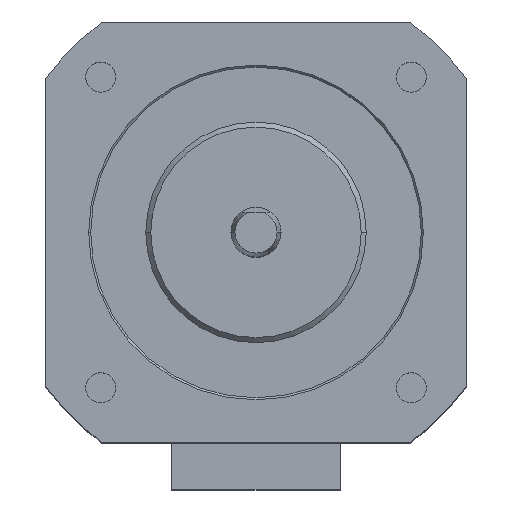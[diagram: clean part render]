
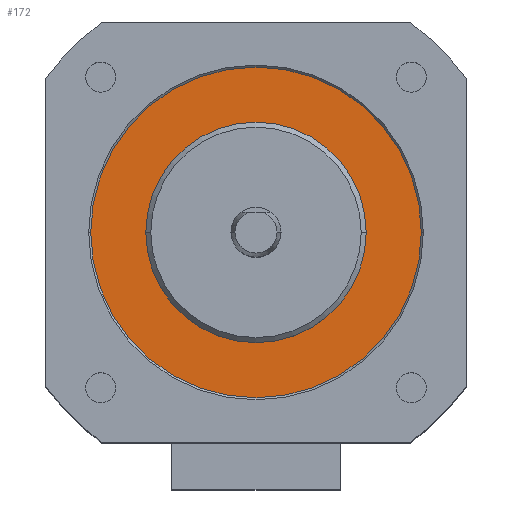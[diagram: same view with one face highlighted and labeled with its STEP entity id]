
A CAD part, top view. The second image highlights one B-rep face of the part: STEP entity #172.
In plain terms, the highlighted planar face has unit normal (0, 0, 1).
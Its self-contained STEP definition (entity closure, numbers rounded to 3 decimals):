
#4 = CARTESIAN_POINT ( 'NONE',  ( -11., 0., -2.2 ) ) ;
#17 = DIRECTION ( 'NONE',  ( 1., 0., 0. ) ) ;
#43 = VERTEX_POINT ( 'NONE', #4 ) ;
#77 = DIRECTION ( 'NONE',  ( 1., 0., 0. ) ) ;
#171 = CARTESIAN_POINT ( 'NONE',  ( 0., 0., -2.2 ) ) ;
#172 = ADVANCED_FACE ( 'NONE', ( #582, #353 ), #792, .T. ) ;
#241 = AXIS2_PLACEMENT_3D ( 'NONE', #1838, #1695, #1553 ) ;
#248 = EDGE_LOOP ( 'NONE', ( #1597, #1250 ) ) ;
#327 = EDGE_CURVE ( 'NONE', #43, #1662, #1355, .T. ) ;
#353 = FACE_OUTER_BOUND ( 'NONE', #665, .T. ) ;
#358 = DIRECTION ( 'NONE',  ( 0., 0., 1. ) ) ;
#434 = ORIENTED_EDGE ( 'NONE', *, *, #1316, .T. ) ;
#440 = CARTESIAN_POINT ( 'NONE',  ( 11., 0., -2.2 ) ) ;
#452 = AXIS2_PLACEMENT_3D ( 'NONE', #799, #952, #77 ) ;
#471 = AXIS2_PLACEMENT_3D ( 'NONE', #1362, #358, #515 ) ;
#515 = DIRECTION ( 'NONE',  ( 1., 0., 0. ) ) ;
#582 = FACE_BOUND ( 'NONE', #248, .T. ) ;
#665 = EDGE_LOOP ( 'NONE', ( #944, #434 ) ) ;
#670 = VERTEX_POINT ( 'NONE', #1266 ) ;
#714 = CIRCLE ( 'NONE', #452, 16.5 ) ;
#731 = CIRCLE ( 'NONE', #1727, 16.5 ) ;
#762 = DIRECTION ( 'NONE',  ( 0., 0., 1. ) ) ;
#792 = PLANE ( 'NONE',  #471 ) ;
#799 = CARTESIAN_POINT ( 'NONE',  ( 0., 0., -2.2 ) ) ;
#898 = AXIS2_PLACEMENT_3D ( 'NONE', #1009, #762, #1703 ) ;
#902 = DIRECTION ( 'NONE',  ( 0., 0., 1. ) ) ;
#944 = ORIENTED_EDGE ( 'NONE', *, *, #1791, .T. ) ;
#952 = DIRECTION ( 'NONE',  ( 0., 0., 1. ) ) ;
#990 = CARTESIAN_POINT ( 'NONE',  ( 16.5, 0., -2.2 ) ) ;
#1009 = CARTESIAN_POINT ( 'NONE',  ( 0., 0., -2.2 ) ) ;
#1035 = EDGE_CURVE ( 'NONE', #1662, #43, #1602, .T. ) ;
#1250 = ORIENTED_EDGE ( 'NONE', *, *, #327, .F. ) ;
#1266 = CARTESIAN_POINT ( 'NONE',  ( -16.5, 0., -2.2 ) ) ;
#1316 = EDGE_CURVE ( 'NONE', #670, #1485, #714, .T. ) ;
#1355 = CIRCLE ( 'NONE', #898, 11. ) ;
#1362 = CARTESIAN_POINT ( 'NONE',  ( 0., 0., -2.2 ) ) ;
#1485 = VERTEX_POINT ( 'NONE', #990 ) ;
#1553 = DIRECTION ( 'NONE',  ( 1., 0., 0. ) ) ;
#1597 = ORIENTED_EDGE ( 'NONE', *, *, #1035, .F. ) ;
#1602 = CIRCLE ( 'NONE', #241, 11. ) ;
#1662 = VERTEX_POINT ( 'NONE', #440 ) ;
#1695 = DIRECTION ( 'NONE',  ( 0., 0., 1. ) ) ;
#1703 = DIRECTION ( 'NONE',  ( 1., 0., 0. ) ) ;
#1727 = AXIS2_PLACEMENT_3D ( 'NONE', #171, #902, #17 ) ;
#1791 = EDGE_CURVE ( 'NONE', #1485, #670, #731, .T. ) ;
#1838 = CARTESIAN_POINT ( 'NONE',  ( 0., 0., -2.2 ) ) ;
